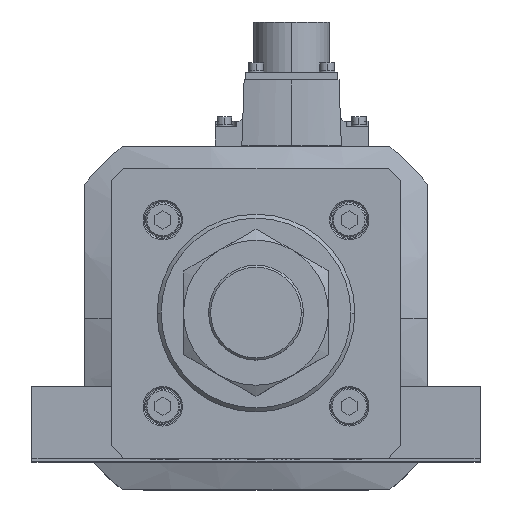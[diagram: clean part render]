
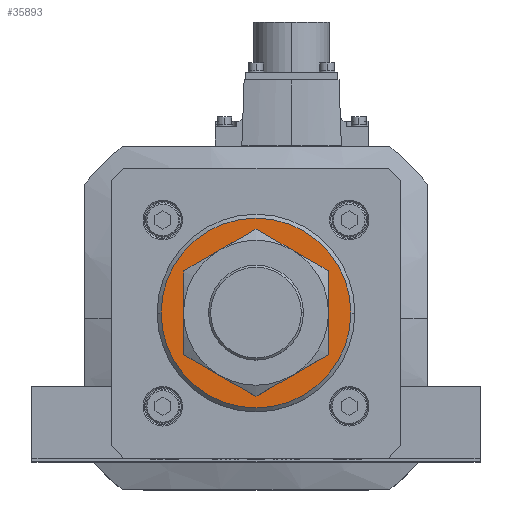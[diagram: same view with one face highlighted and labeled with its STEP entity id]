
A CAD part, top view. The second image highlights one B-rep face of the part: STEP entity #35893.
In plain terms, the highlighted planar face has unit normal (0, 0, 1).
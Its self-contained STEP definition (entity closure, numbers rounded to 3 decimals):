
#1492 = FACE_BOUND ( 'NONE', #3429, .T. ) ;
#1652 = DIRECTION ( 'NONE',  ( 1., 0., 0. ) ) ;
#2173 = CIRCLE ( 'NONE', #23017, 23. ) ;
#3429 = EDGE_LOOP ( 'NONE', ( #4740, #21962 ) ) ;
#3561 = VERTEX_POINT ( 'NONE', #18479 ) ;
#4190 = CARTESIAN_POINT ( 'NONE',  ( 0., 0., 846. ) ) ;
#4740 = ORIENTED_EDGE ( 'NONE', *, *, #28382, .T. ) ;
#5762 = AXIS2_PLACEMENT_3D ( 'NONE', #33208, #6915, #35891 ) ;
#6021 = EDGE_CURVE ( 'NONE', #33227, #3561, #22948, .T. ) ;
#6915 = DIRECTION ( 'NONE',  ( 0., 0., 1. ) ) ;
#7540 = DIRECTION ( 'NONE',  ( 0., 0., 1. ) ) ;
#7653 = AXIS2_PLACEMENT_3D ( 'NONE', #4190, #16052, #13496 ) ;
#8510 = CIRCLE ( 'NONE', #8559, 36. ) ;
#8559 = AXIS2_PLACEMENT_3D ( 'NONE', #20547, #14712, #14590 ) ;
#8944 = AXIS2_PLACEMENT_3D ( 'NONE', #19127, #7540, #1652 ) ;
#9182 = EDGE_LOOP ( 'NONE', ( #23481, #19904 ) ) ;
#11664 = CARTESIAN_POINT ( 'NONE',  ( 0., 0., 846. ) ) ;
#13496 = DIRECTION ( 'NONE',  ( 1., 0., 0. ) ) ;
#14590 = DIRECTION ( 'NONE',  ( 1., 0., 0. ) ) ;
#14712 = DIRECTION ( 'NONE',  ( 0., 0., 1. ) ) ;
#14884 = VERTEX_POINT ( 'NONE', #28512 ) ;
#15470 = PLANE ( 'NONE',  #5762 ) ;
#16052 = DIRECTION ( 'NONE',  ( 0., 0., -1. ) ) ;
#18479 = CARTESIAN_POINT ( 'NONE',  ( -36., 0., 846. ) ) ;
#19127 = CARTESIAN_POINT ( 'NONE',  ( 0., 0., 846. ) ) ;
#19904 = ORIENTED_EDGE ( 'NONE', *, *, #6021, .T. ) ;
#20036 = CARTESIAN_POINT ( 'NONE',  ( -23., 0., 846. ) ) ;
#20547 = CARTESIAN_POINT ( 'NONE',  ( 0., 0., 846. ) ) ;
#20597 = CARTESIAN_POINT ( 'NONE',  ( 36., 0., 846. ) ) ;
#21548 = FACE_OUTER_BOUND ( 'NONE', #9182, .T. ) ;
#21962 = ORIENTED_EDGE ( 'NONE', *, *, #27359, .T. ) ;
#22948 = CIRCLE ( 'NONE', #8944, 36. ) ;
#23017 = AXIS2_PLACEMENT_3D ( 'NONE', #11664, #23370, #29505 ) ;
#23370 = DIRECTION ( 'NONE',  ( 0., 0., -1. ) ) ;
#23481 = ORIENTED_EDGE ( 'NONE', *, *, #24785, .T. ) ;
#24785 = EDGE_CURVE ( 'NONE', #3561, #33227, #8510, .T. ) ;
#24893 = CIRCLE ( 'NONE', #7653, 23. ) ;
#26251 = VERTEX_POINT ( 'NONE', #20036 ) ;
#27359 = EDGE_CURVE ( 'NONE', #26251, #14884, #2173, .T. ) ;
#28382 = EDGE_CURVE ( 'NONE', #14884, #26251, #24893, .T. ) ;
#28512 = CARTESIAN_POINT ( 'NONE',  ( 23., 0., 846. ) ) ;
#29505 = DIRECTION ( 'NONE',  ( 1., 0., 0. ) ) ;
#33208 = CARTESIAN_POINT ( 'NONE',  ( 0., 0., 846. ) ) ;
#33227 = VERTEX_POINT ( 'NONE', #20597 ) ;
#35891 = DIRECTION ( 'NONE',  ( 1., 0., 0. ) ) ;
#35893 = ADVANCED_FACE ( 'NONE', ( #1492, #21548 ), #15470, .T. ) ;
